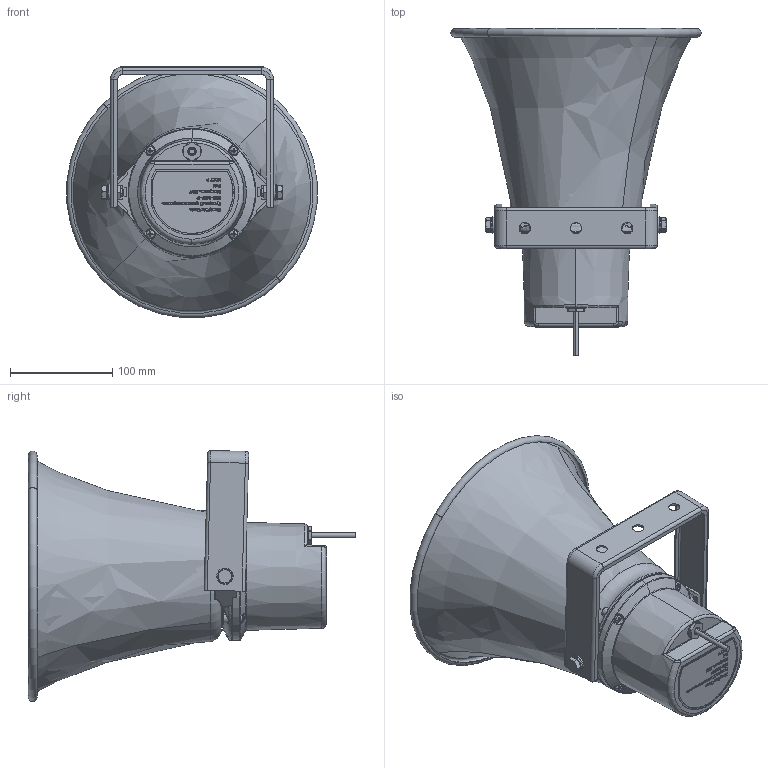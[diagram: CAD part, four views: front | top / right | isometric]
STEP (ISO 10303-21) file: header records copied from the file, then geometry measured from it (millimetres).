
FILE_DESCRIPTION (( 'STEP AP214' ), '1' );
FILE_NAME ('Ðóïîð RSH-30W-IP.STEP', '2024-09-24T20:34:15', ( '' ), ( '' ), 'SwSTEP 2.0', 'SolidWorks 2024', '' );
FILE_SCHEMA (( 'AUTOMOTIVE_DESIGN' ));
Length unit declared in the file: millimetre
Products named in the file (16): Провод30; Крышка30; curved spring lock washer_din_Spring washer DIN 128 - A8; Фланец30; Рупор30; Лира_30; plain washer normal grade a_iso_Washer ISO 7089 - 8; hex thin nut gradeb_din_Hexagon Nut ISO 4036 - M8 - N; Рупор RSH-30W-IP; sheet metal screws_din_Tapping screw DIN 7049-ST4.2x16-C-H-N; Прокладка 30; hex screw gradeab_din_DIN EN 24017 - M8 x 16-N; Ось30; sheet metal screws_din_Tapping screw DIN 7049-ST4.2x22-C-H-N; Шильд 130; Шильд 230_30
Assembly tree (25 placements, depth 2):
  Рупор RSH-30W-IP
    Фланец30
    Крышка30
    Рупор30
    Ось30
    sheet metal screws_din_Tapping screw DIN 7049-ST4.2x22-C-H-N  x4
    sheet metal screws_din_Tapping screw DIN 7049-ST4.2x16-C-H-N  x4
    Провод30
    Шильд 130
    Шильд 230_30
    Лира_30
    plain washer normal grade a_iso_Washer ISO 7089 - 8  x2
    curved spring lock washer_din_Spring washer DIN 128 - A8  x2
    hex screw gradeab_din_DIN EN 24017 - M8 x 16-N  x2
    hex thin nut gradeb_din_Hexagon Nut ISO 4036 - M8 - N  x2
    Прокладка 30
Bounding box: 244.28 x 319.4 x 245.04 mm (x, y, z)
Volume: 481590.1 mm3; surface area: 539842.2 mm2
Topology: 25 solids, 25 shells, 1392 faces, 4191 edges, 2957 vertices
Faces by surface type: plane 656, cylinder 270, bspline 202, cone 137, torus 97, sphere 30
Entity records: 62798 total; most frequent: CARTESIAN_POINT 25984, ORIENTED_EDGE 7086, DIRECTION 5674, EDGE_CURVE 3543, VERTEX_POINT 2559, AXIS2_PLACEMENT_3D 2097, LINE 1480, VECTOR 1480
